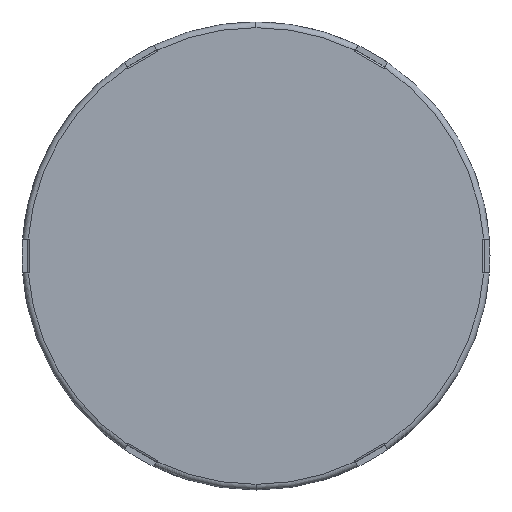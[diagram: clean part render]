
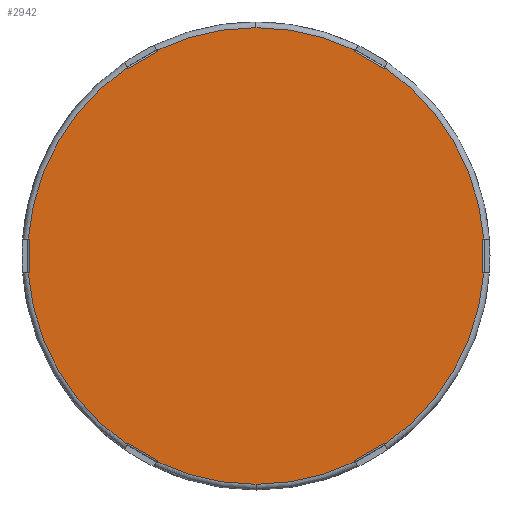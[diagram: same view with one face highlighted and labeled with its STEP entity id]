
A CAD part, left-side view. The second image highlights one B-rep face of the part: STEP entity #2942.
In plain terms, the highlighted planar face has unit normal (-1, 0, 0).
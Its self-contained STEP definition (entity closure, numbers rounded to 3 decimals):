
#629=CARTESIAN_POINT('',(0.,0.,-121.));
#630=VERTEX_POINT('',#629);
#640=CARTESIAN_POINT('',(0.,52.538,-108.999));
#641=VERTEX_POINT('',#640);
#642=CARTESIAN_POINT('',(0.,0.0,0.0));
#643=DIRECTION('',(1.0,0.0,0.0));
#644=DIRECTION('',(0.0,0.0,-1.0));
#645=AXIS2_PLACEMENT_3D('',#642,#643,#644);
#646=CIRCLE('',#645,121.);
#647=EDGE_CURVE('',#630,#641,#646,.T.);
#679=CARTESIAN_POINT('',(0.,0.,121.));
#680=VERTEX_POINT('',#679);
#689=CARTESIAN_POINT('',(0.,52.538,108.999));
#690=VERTEX_POINT('',#689);
#704=CARTESIAN_POINT('',(0.,0.0,0.0));
#705=DIRECTION('',(1.0,0.0,0.0));
#706=DIRECTION('',(0.0,0.0,1.0));
#707=AXIS2_PLACEMENT_3D('',#704,#705,#706);
#708=CIRCLE('',#707,121.);
#709=EDGE_CURVE('',#690,#680,#708,.T.);
#2688=CARTESIAN_POINT('',(0.,-52.538,108.999));
#2689=VERTEX_POINT('',#2688);
#2690=CARTESIAN_POINT('',(0.,0.0,0.0));
#2691=DIRECTION('',(1.0,0.0,0.0));
#2692=DIRECTION('',(0.0,0.0,1.0));
#2693=AXIS2_PLACEMENT_3D('',#2690,#2691,#2692);
#2694=CIRCLE('',#2693,121.);
#2695=EDGE_CURVE('',#680,#2689,#2694,.T.);
#2720=CARTESIAN_POINT('',(0.,-52.206,108.423));
#2721=VERTEX_POINT('',#2720);
#2722=CARTESIAN_POINT('',(0.,-52.206,108.423));
#2723=DIRECTION('',(0.0,-0.5,0.866));
#2724=VECTOR('',#2723,0.665);
#2725=LINE('',#2722,#2724);
#2726=EDGE_CURVE('',#2721,#2689,#2725,.T.);
#2754=CARTESIAN_POINT('',(0.,62.0,0.0));
#2755=DIRECTION('',(-1.0,0.0,0.0));
#2756=DIRECTION('',(0.0,0.0,1.0));
#2757=AXIS2_PLACEMENT_3D('',#2754,#2755,#2756);
#2758=PLANE('',#2757);
#2759=ORIENTED_EDGE('',*,*,#709,.F.);
#2760=CARTESIAN_POINT('',(0.,52.206,108.423));
#2761=VERTEX_POINT('',#2760);
#2762=CARTESIAN_POINT('',(0.,52.206,108.423));
#2763=DIRECTION('',(0.0,0.5,0.866));
#2764=VECTOR('',#2763,0.665);
#2765=LINE('',#2762,#2764);
#2766=EDGE_CURVE('',#2761,#690,#2765,.T.);
#2767=ORIENTED_EDGE('',*,*,#2766,.F.);
#2768=CARTESIAN_POINT('',(0.,67.794,99.423));
#2769=VERTEX_POINT('',#2768);
#2770=CARTESIAN_POINT('',(0.,67.794,99.423));
#2771=DIRECTION('',(0.0,-0.866,0.5));
#2772=VECTOR('',#2771,18.0);
#2773=LINE('',#2770,#2772);
#2774=EDGE_CURVE('',#2769,#2761,#2773,.T.);
#2775=ORIENTED_EDGE('',*,*,#2774,.F.);
#2776=CARTESIAN_POINT('',(0.,68.127,99.999));
#2777=VERTEX_POINT('',#2776);
#2778=CARTESIAN_POINT('',(0.,67.794,99.423));
#2779=DIRECTION('',(0.0,0.5,0.866));
#2780=VECTOR('',#2779,0.665);
#2781=LINE('',#2778,#2780);
#2782=EDGE_CURVE('',#2769,#2777,#2781,.T.);
#2783=ORIENTED_EDGE('',*,*,#2782,.T.);
#2784=CARTESIAN_POINT('',(0.,120.665,9.));
#2785=VERTEX_POINT('',#2784);
#2786=CARTESIAN_POINT('',(0.,0.0,0.0));
#2787=DIRECTION('',(1.,0.0,0.0));
#2788=DIRECTION('',(0.0,0.866,0.5));
#2789=AXIS2_PLACEMENT_3D('',#2786,#2787,#2788);
#2790=CIRCLE('',#2789,121.);
#2791=EDGE_CURVE('',#2785,#2777,#2790,.T.);
#2792=ORIENTED_EDGE('',*,*,#2791,.F.);
#2793=CARTESIAN_POINT('',(0.,120.0,9.));
#2794=VERTEX_POINT('',#2793);
#2795=CARTESIAN_POINT('',(0.,120.0,9.));
#2796=DIRECTION('',(0.0,1.0,0.0));
#2797=VECTOR('',#2796,0.665);
#2798=LINE('',#2795,#2797);
#2799=EDGE_CURVE('',#2794,#2785,#2798,.T.);
#2800=ORIENTED_EDGE('',*,*,#2799,.F.);
#2801=CARTESIAN_POINT('',(0.,120.0,-9.));
#2802=VERTEX_POINT('',#2801);
#2803=CARTESIAN_POINT('',(0.,120.0,-9.));
#2804=DIRECTION('',(0.0,0.0,1.0));
#2805=VECTOR('',#2804,18.0);
#2806=LINE('',#2803,#2805);
#2807=EDGE_CURVE('',#2802,#2794,#2806,.T.);
#2808=ORIENTED_EDGE('',*,*,#2807,.F.);
#2809=CARTESIAN_POINT('',(0.,120.665,-9.));
#2810=VERTEX_POINT('',#2809);
#2811=CARTESIAN_POINT('',(0.,120.0,-9.));
#2812=DIRECTION('',(0.0,1.0,0.0));
#2813=VECTOR('',#2812,0.665);
#2814=LINE('',#2811,#2813);
#2815=EDGE_CURVE('',#2802,#2810,#2814,.T.);
#2816=ORIENTED_EDGE('',*,*,#2815,.T.);
#2817=CARTESIAN_POINT('',(0.,68.127,-99.999));
#2818=VERTEX_POINT('',#2817);
#2819=CARTESIAN_POINT('',(0.,0.0,0.0));
#2820=DIRECTION('',(1.,0.0,0.0));
#2821=DIRECTION('',(0.0,0.866,-0.5));
#2822=AXIS2_PLACEMENT_3D('',#2819,#2820,#2821);
#2823=CIRCLE('',#2822,121.0);
#2824=EDGE_CURVE('',#2818,#2810,#2823,.T.);
#2825=ORIENTED_EDGE('',*,*,#2824,.F.);
#2826=CARTESIAN_POINT('',(0.,67.794,-99.423));
#2827=VERTEX_POINT('',#2826);
#2828=CARTESIAN_POINT('',(0.,67.794,-99.423));
#2829=DIRECTION('',(0.0,0.5,-0.866));
#2830=VECTOR('',#2829,0.665);
#2831=LINE('',#2828,#2830);
#2832=EDGE_CURVE('',#2827,#2818,#2831,.T.);
#2833=ORIENTED_EDGE('',*,*,#2832,.F.);
#2834=CARTESIAN_POINT('',(0.,52.206,-108.423));
#2835=VERTEX_POINT('',#2834);
#2836=CARTESIAN_POINT('',(0.,52.206,-108.423));
#2837=DIRECTION('',(0.0,0.866,0.5));
#2838=VECTOR('',#2837,18.);
#2839=LINE('',#2836,#2838);
#2840=EDGE_CURVE('',#2835,#2827,#2839,.T.);
#2841=ORIENTED_EDGE('',*,*,#2840,.F.);
#2842=CARTESIAN_POINT('',(0.,52.206,-108.423));
#2843=DIRECTION('',(0.0,0.5,-0.866));
#2844=VECTOR('',#2843,0.665);
#2845=LINE('',#2842,#2844);
#2846=EDGE_CURVE('',#2835,#641,#2845,.T.);
#2847=ORIENTED_EDGE('',*,*,#2846,.T.);
#2848=ORIENTED_EDGE('',*,*,#647,.F.);
#2849=CARTESIAN_POINT('',(0.,-52.538,-108.999));
#2850=VERTEX_POINT('',#2849);
#2851=CARTESIAN_POINT('',(0.,0.0,0.0));
#2852=DIRECTION('',(1.0,0.0,0.0));
#2853=DIRECTION('',(0.0,0.0,-1.0));
#2854=AXIS2_PLACEMENT_3D('',#2851,#2852,#2853);
#2855=CIRCLE('',#2854,121.);
#2856=EDGE_CURVE('',#2850,#630,#2855,.T.);
#2857=ORIENTED_EDGE('',*,*,#2856,.F.);
#2858=CARTESIAN_POINT('',(0.,-52.206,-108.423));
#2859=VERTEX_POINT('',#2858);
#2860=CARTESIAN_POINT('',(0.,-52.206,-108.423));
#2861=DIRECTION('',(0.0,-0.5,-0.866));
#2862=VECTOR('',#2861,0.665);
#2863=LINE('',#2860,#2862);
#2864=EDGE_CURVE('',#2859,#2850,#2863,.T.);
#2865=ORIENTED_EDGE('',*,*,#2864,.F.);
#2866=CARTESIAN_POINT('',(0.,-67.794,-99.423));
#2867=VERTEX_POINT('',#2866);
#2868=CARTESIAN_POINT('',(0.,-67.794,-99.423));
#2869=DIRECTION('',(0.0,0.866,-0.5));
#2870=VECTOR('',#2869,18.);
#2871=LINE('',#2868,#2870);
#2872=EDGE_CURVE('',#2867,#2859,#2871,.T.);
#2873=ORIENTED_EDGE('',*,*,#2872,.F.);
#2874=CARTESIAN_POINT('',(0.,-68.127,-99.999));
#2875=VERTEX_POINT('',#2874);
#2876=CARTESIAN_POINT('',(0.,-67.794,-99.423));
#2877=DIRECTION('',(0.0,-0.5,-0.866));
#2878=VECTOR('',#2877,0.665);
#2879=LINE('',#2876,#2878);
#2880=EDGE_CURVE('',#2867,#2875,#2879,.T.);
#2881=ORIENTED_EDGE('',*,*,#2880,.T.);
#2882=CARTESIAN_POINT('',(0.,-120.665,-9.0));
#2883=VERTEX_POINT('',#2882);
#2884=CARTESIAN_POINT('',(0.,0.0,0.0));
#2885=DIRECTION('',(1.0,0.0,0.0));
#2886=DIRECTION('',(0.0,-0.866,-0.5));
#2887=AXIS2_PLACEMENT_3D('',#2884,#2885,#2886);
#2888=CIRCLE('',#2887,121.);
#2889=EDGE_CURVE('',#2883,#2875,#2888,.T.);
#2890=ORIENTED_EDGE('',*,*,#2889,.F.);
#2891=CARTESIAN_POINT('',(0.,-120.0,-9.0));
#2892=VERTEX_POINT('',#2891);
#2893=CARTESIAN_POINT('',(0.,-120.0,-9.0));
#2894=DIRECTION('',(0.0,-1.0,0.0));
#2895=VECTOR('',#2894,0.665);
#2896=LINE('',#2893,#2895);
#2897=EDGE_CURVE('',#2892,#2883,#2896,.T.);
#2898=ORIENTED_EDGE('',*,*,#2897,.F.);
#2899=CARTESIAN_POINT('',(0.,-120.0,9.0));
#2900=VERTEX_POINT('',#2899);
#2901=CARTESIAN_POINT('',(0.,-120.0,9.0));
#2902=DIRECTION('',(0.0,0.0,-1.0));
#2903=VECTOR('',#2902,18.0);
#2904=LINE('',#2901,#2903);
#2905=EDGE_CURVE('',#2900,#2892,#2904,.T.);
#2906=ORIENTED_EDGE('',*,*,#2905,.F.);
#2907=CARTESIAN_POINT('',(0.,-120.665,9.0));
#2908=VERTEX_POINT('',#2907);
#2909=CARTESIAN_POINT('',(0.,-120.0,9.0));
#2910=DIRECTION('',(0.0,-1.0,0.0));
#2911=VECTOR('',#2910,0.665);
#2912=LINE('',#2909,#2911);
#2913=EDGE_CURVE('',#2900,#2908,#2912,.T.);
#2914=ORIENTED_EDGE('',*,*,#2913,.T.);
#2915=CARTESIAN_POINT('',(0.,-68.127,99.999));
#2916=VERTEX_POINT('',#2915);
#2917=CARTESIAN_POINT('',(0.,0.0,0.0));
#2918=DIRECTION('',(1.,0.0,0.0));
#2919=DIRECTION('',(0.0,-0.866,0.5));
#2920=AXIS2_PLACEMENT_3D('',#2917,#2918,#2919);
#2921=CIRCLE('',#2920,121.);
#2922=EDGE_CURVE('',#2916,#2908,#2921,.T.);
#2923=ORIENTED_EDGE('',*,*,#2922,.F.);
#2924=CARTESIAN_POINT('',(0.,-67.794,99.423));
#2925=VERTEX_POINT('',#2924);
#2926=CARTESIAN_POINT('',(0.,-67.794,99.423));
#2927=DIRECTION('',(0.0,-0.5,0.866));
#2928=VECTOR('',#2927,0.665);
#2929=LINE('',#2926,#2928);
#2930=EDGE_CURVE('',#2925,#2916,#2929,.T.);
#2931=ORIENTED_EDGE('',*,*,#2930,.F.);
#2932=CARTESIAN_POINT('',(0.,-52.206,108.423));
#2933=DIRECTION('',(0.0,-0.866,-0.5));
#2934=VECTOR('',#2933,18.);
#2935=LINE('',#2932,#2934);
#2936=EDGE_CURVE('',#2721,#2925,#2935,.T.);
#2937=ORIENTED_EDGE('',*,*,#2936,.F.);
#2938=ORIENTED_EDGE('',*,*,#2726,.T.);
#2939=ORIENTED_EDGE('',*,*,#2695,.F.);
#2940=EDGE_LOOP('',(#2759,#2767,#2775,#2783,#2792,#2800,#2808,#2816,#2825,#2833,#2841,#2847,#2848,#2857,#2865,#2873,#2881,#2890,#2898,#2906,#2914,#2923,#2931,#2937,#2938,#2939));
#2941=FACE_OUTER_BOUND('',#2940,.T.);
#2942=ADVANCED_FACE('',(#2941),#2758,.T.);
